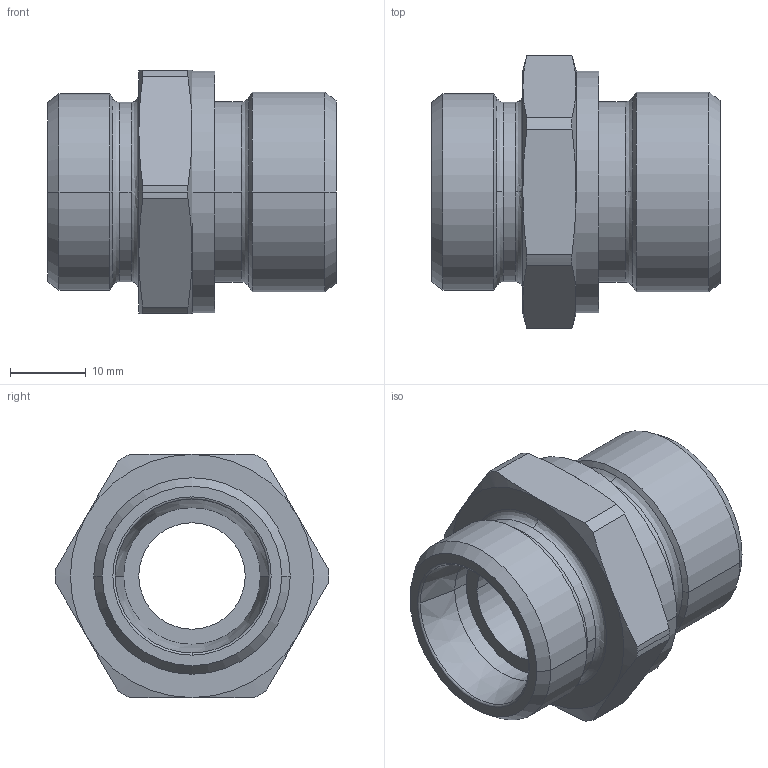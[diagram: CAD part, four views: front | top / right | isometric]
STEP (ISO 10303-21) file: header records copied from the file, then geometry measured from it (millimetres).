
FILE_DESCRIPTION((''),'2;1');
FILE_NAME('100534.stp','2007-10-30T14:35:26',(''),(''),'AutoCAD STEP 2000i','AutoCAD 2000i',', , ');
FILE_SCHEMA(('CONFIG_CONTROL_DESIGN'));
Length unit declared in the file: millimetre
Products named in the file (2): 100534.0; CHIAVE SMUSSATA#0
Assembly tree (1 placements, depth 2):
  100534.0
    CHIAVE SMUSSATA#0
Bounding box: 38 x 36 x 32 mm (x, y, z)
Volume: 15430.6 mm3; surface area: 6694.2 mm2
Topology: 1 solids, 1 shells, 75 faces, 185 edges, 117 vertices
Faces by surface type: cylinder 24, cone 24, plane 13, bspline 12, torus 2
Entity records: 2835 total; most frequent: CARTESIAN_POINT 955, DIRECTION 410, ORIENTED_EDGE 370, EDGE_CURVE 185, AXIS2_PLACEMENT_3D 184, CIRCLE 119, VERTEX_POINT 117, EDGE_LOOP 82
